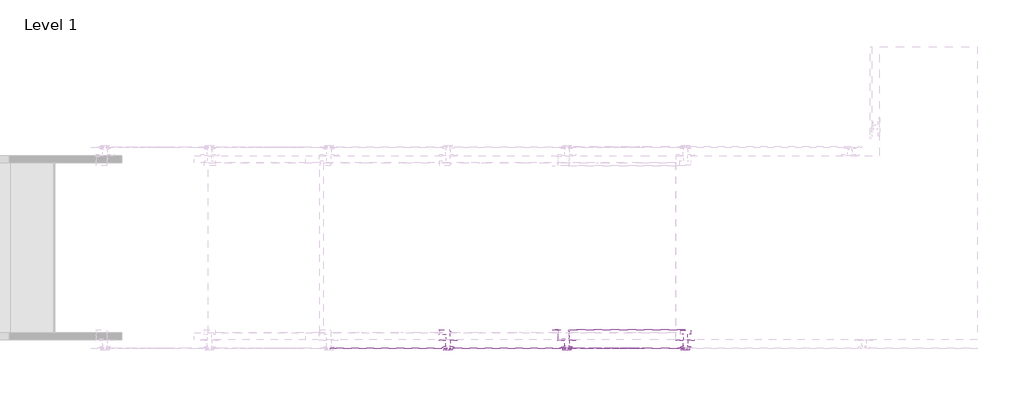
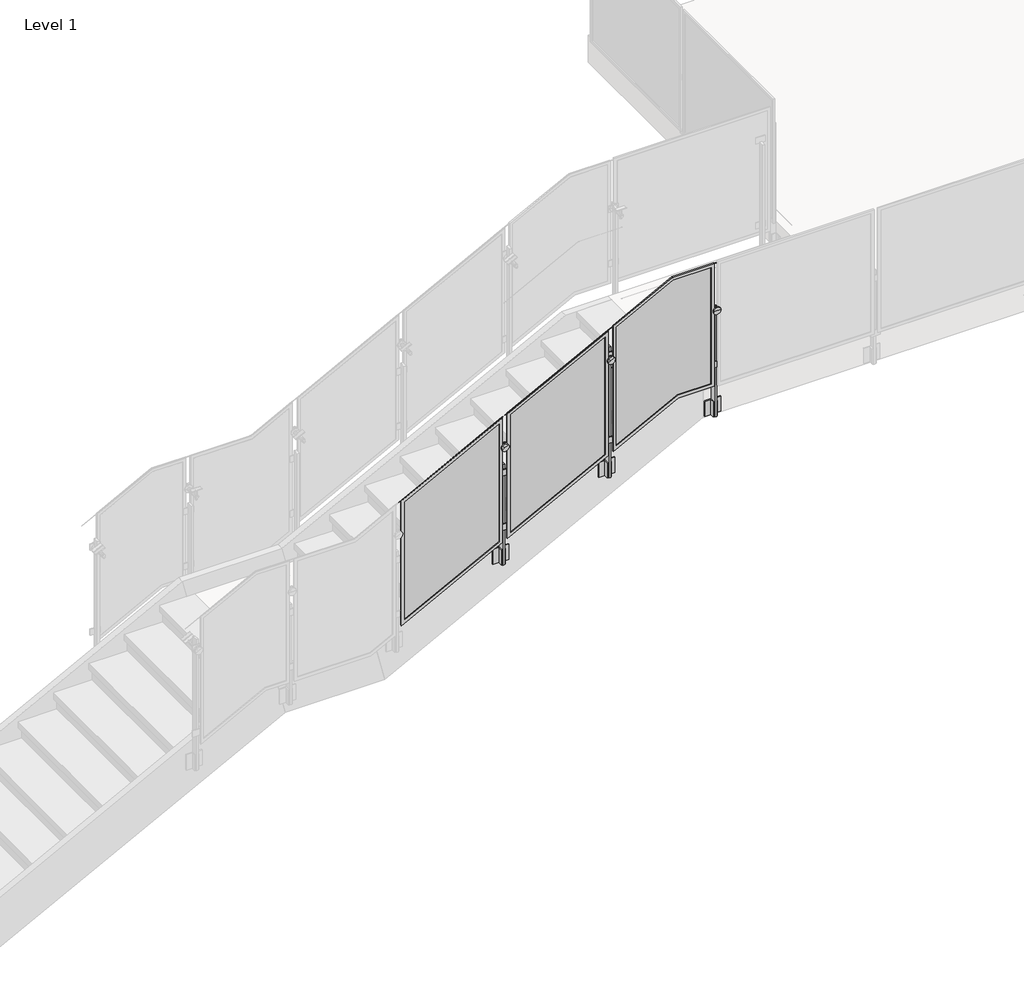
# One storey, part 19 of 28: 3 railings, 1 proxy.
"""IFC4 building model written with IfcOpenShell, lengths in millimetres."""

from ifc_helpers import new_model, si_unit, point, frame, frame_2d, origin, place, context, project, spatial, polyline, circle_curve, ellipse_curve, trimmed, segment, composite_curve, outline, extrude, transform, mapped, element, save
from ifc_brep_helpers import plane_surface, cylinder_surface, advanced_brep
from components import building_element_proxy_1a12bf55, standard_pp01_a99eba28

model = new_model("IFC4")

# Units and contexts
model_context = context("Model", 3, world=origin())
ifc_project = project(units=[si_unit("LENGTHUNIT", "METRE", prefix="MILLI")], contexts=[model_context])

# Site, building, storey
site = spatial("IfcSite", under=ifc_project)
building = spatial("IfcBuilding", under=site)
storey = spatial("IfcBuildingStorey", under=building, Name="Level 1", Elevation=0.0)

# Proxy
placement = place(None, origin())
building_element_proxy_shape = building_element_proxy_1a12bf55(model_context)
element("IfcBuildingElementProxy", 1, Name="Baluster-End-Post-VIVA-STRUC-Top Mount-Stair : WELDED Fascia MOUNT STRUC_STAIR", ObjectType="Baluster-End-Post-VIVA-STRUC-Top Mount-Stair : WELDED Fascia MOUNT STRUC_STAIR", at=placement, inside=storey, context=model_context, shape_type="MappedRepresentation", body=[
    mapped(building_element_proxy_shape, transform((-12280.6217998, -3841.110946, 3645.5604), x_axis=(1.0, 0.0, 0.0), y_axis=(0.0, 1.0, 0.0), z_axis=(0.0, 0.0, 1.0))),
])

# Railings
element("IfcRailing", 2, ObjectType="Metal-Panel-VIVA-STRUC-Fascia-Stairs-Upper", at=placement, inside=storey, context=model_context, shape_type="SolidModel", body=[
    advanced_brep(
    [(-14795.2265621, -3972.849746, 3002.0818907), (-14795.2265621, -3971.849746, 3002.0818907), (-13118.8265621, -3972.849746, 3872.9390336), (-13118.8265621, -3971.849746, 3872.9390336)],
    [
        (0, 1, ellipse_curve(frame((-14795.2265621, -3972.349746, 3002.0818907), z_axis=(-1.0, 0.0, 0.0), x_axis=(0.0, 0.0, -1.0)), 0.5634403, 0.5)),
        (1, 0, ellipse_curve(frame((-14795.2265621, -3972.349746, 3002.0818907), z_axis=(-1.0, 0.0, 0.0), x_axis=(0.0, 0.0, -1.0)), 0.5634403, 0.5)),
        (2, 3, ellipse_curve(frame((-13118.8265621, -3972.349746, 3872.9390336), z_axis=(1.0, 0.0, 0.0), x_axis=(0.0, 0.0, -1.0)), 0.5634403, 0.5)),
        (3, 2, ellipse_curve(frame((-13118.8265621, -3972.349746, 3872.9390336), z_axis=(1.0, 0.0, 0.0), x_axis=(0.0, 0.0, -1.0)), 0.5634403, 0.5)),
        (0, 2),
        (3, 1),
    ],
    [
        plane_surface(frame((-14795.2265621, -3972.349746, 3002.6453311), z_axis=(-1.0, 0.0, 0.0), x_axis=(0.0, 1.0, 0.0))),
        plane_surface(frame((-13118.8265621, -3972.349746, 3873.5024739), z_axis=(1.0, 0.0, 0.0), x_axis=(0.0, 1.0, 0.0))),
        cylinder_surface(frame((-14794.9960672, -3972.349746, 3002.2016284), z_axis=(-0.8874054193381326, 0.0, -0.46098982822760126), x_axis=(0.0, 1.0, 0.0)), 0.5),
    ],
    [
        (0, [[1, 2]]),
        (1, [[3, 4]]),
        (2, [[-1, 5, -4, 6]]),
        (2, [[-2, -6, -3, -5]]),
    ],
),
    extrude(outline(polyline([(3430.0949144, -13912.5806052), (2443.6978914, -13912.5806052), (2832.9488452, -13163.2725191), (3819.3458682, -13163.2725191), (3430.0949144, -13912.5806052)])), frame((0.0, -3970.804746, 0.0), z_axis=(0.0, 1.0, 0.0), x_axis=(0.0, 0.0, 1.0)), (0.0, 0.0, 1.0), 3.0),
    extrude(outline(polyline([(2401.8803176, -13937.9806052), (2817.5208818, -13137.8725191), (3861.1634421, -13137.8725191), (3445.5228778, -13937.9806052), (2401.8803176, -13937.9806052)]), holes=[polyline([(3430.0949144, -13912.5806052), (3819.3458682, -13163.2725191), (2832.9488452, -13163.2725191), (2443.6978914, -13912.5806052), (3430.0949144, -13912.5806052)])]), frame((0.0, -3977.329746, 0.0), z_axis=(0.0, 1.0, 0.0), x_axis=(0.0, 0.0, 1.0)), (0.0, 0.0, 1.0), 9.525),
    extrude(outline(composite_curve([segment(polyline([(-2.9997399, 0.0), (0.0, 0.0)]), True, "CONTINUOUS"), segment(trimmed(circle_curve(frame_2d((19.0451472, 1e-07)), 19.0451471), [point((0.0, 0.0))], [point((23.6280664, -18.4855208))], True, "CARTESIAN"), True, "CONTINUOUS"), segment(polyline([(23.6280664, -18.4855208), (24.3499073, -21.3971159)]), True, "CONTINUOUS"), segment(trimmed(circle_curve(frame_2d((19.0451472, 1e-07)), 22.0448871), [point((24.3499073, -21.3971159))], [point((-2.9997399, 0.0))], False, "CARTESIAN"), True, "CONTINUOUS")], self_intersect=False)), frame((-14019.5142726, -3873.586146, 3210.0400993), z_axis=(0.8874054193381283, 0.0, 0.46098982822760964), x_axis=(-0.2840545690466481, 0.7876022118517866, 0.5468050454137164)), (0.0, 0.0, 1.0), 79.1184357),
    advanced_brep(
    [(-13944.6293845, -3858.586146, 3151.7003356), (-13944.6293845, -3851.442396, 3151.7003356), (-13944.6293845, -3865.729896, 3151.7003356), (-13980.4886307, -3865.729896, 3220.7293846), (-13980.4886307, -3851.442396, 3220.7293846), (-13980.4886307, -3858.586146, 3220.7293846)],
    [
        (0, 1),
        (1, 2, circle_curve(frame((-13944.6293845, -3858.586146, 3151.7003356), z_axis=(0.46098982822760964, 0.0, -0.8874054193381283), x_axis=(0.0, 1.0, 0.0)), 7.14375)),
        (2, 0),
        (3, 4, circle_curve(frame((-13980.4886307, -3858.586146, 3220.7293846), z_axis=(-0.46098982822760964, 0.0, 0.8874054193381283), x_axis=(0.0, 1.0, 0.0)), 7.14375)),
        (4, 5),
        (5, 3),
        (2, 1, circle_curve(frame((-13944.6293845, -3858.586146, 3151.7003356), z_axis=(0.46098982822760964, 0.0, -0.8874054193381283), x_axis=(0.0, 1.0, 0.0)), 7.14375)),
        (4, 3, circle_curve(frame((-13980.4886307, -3858.586146, 3220.7293846), z_axis=(-0.46098982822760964, 0.0, 0.8874054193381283), x_axis=(0.0, 1.0, 0.0)), 7.14375)),
        (1, 4),
        (3, 2),
    ],
    [
        plane_surface(frame((-13944.6293845, -3858.586146, 3151.7003356), z_axis=(0.4609898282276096, 0.0, -0.8874054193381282), x_axis=(0.0, 1.0, 0.0))),
        plane_surface(frame((-13980.4886307, -3858.586146, 3220.7293846), z_axis=(-0.4609898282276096, 0.0, 0.8874054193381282), x_axis=(0.0, 1.0, 0.0))),
        cylinder_surface(frame((-13827.6751846, -3858.586146, 2926.5635008), z_axis=(0.46098982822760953, 0.0, -0.8874054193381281), x_axis=(0.0, 1.0, 0.0)), 7.14375),
    ],
    [
        (0, [[1, 2, 3]]),
        (1, [[4, 5, 6]]),
        (0, [[-3, 7, -1]]),
        (1, [[8, -6, -5]]),
        (2, [[-2, 9, -4, 10]]),
        (2, [[-7, -10, -8, -9]]),
    ],
),
    advanced_brep(
    [(-13930.2601962, -3977.331146, 3189.4695082), (-13983.7929281, -3977.331146, 3161.6602968), (-13962.6615865, -3977.331146, 3172.6376171), (-13951.3915377, -3977.331146, 3178.4921879), (-13930.2601962, -3985.268646, 3189.4695082), (-13983.7929281, -3985.268646, 3161.6602968), (-13930.2601962, -3959.868646, 3189.4695082), (-13983.7929281, -3959.868646, 3161.6602968), (-13968.2966109, -3959.868646, 3169.7103317), (-13945.7565133, -3959.868646, 3181.4194733), (-13930.2601962, -3967.806146, 3189.4695082), (-13983.7929281, -3967.806146, 3161.6602968), (-13957.0265621, -3985.268646, 3175.5649025), (-13945.7565133, -3847.8674022, 3181.4194733), (-13968.2966109, -3847.8674022, 3169.7103317), (-13957.0265621, -3847.8674022, 3175.5649025), (-13951.3915377, -3967.806146, 3178.4921879), (-13962.6615865, -3967.806146, 3172.6376171)],
    [
        (0, 1, circle_curve(frame((-13957.0265621, -3977.331146, 3175.5649025), z_axis=(0.0, 1.0, 0.0), x_axis=(-0.8874054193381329, 0.0, -0.46098982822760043)), 30.1625)),
        (1, 2),
        (2, 3, circle_curve(frame((-13957.0265621, -3977.331146, 3175.5649025), z_axis=(0.0, -1.0, 0.0), x_axis=(-0.8874054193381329, 0.0, -0.46098982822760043)), 6.35)),
        (3, 0),
        (4, 5, circle_curve(frame((-13957.0265621, -3985.268646, 3175.5649025), z_axis=(0.0, 1.0, 0.0), x_axis=(-0.8874054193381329, 0.0, -0.46098982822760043)), 30.1625)),
        (5, 1),
        (0, 4),
        (6, 7, circle_curve(frame((-13957.0265621, -3959.868646, 3175.5649025), z_axis=(0.0, 1.0, 0.0), x_axis=(-0.8874054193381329, 0.0, -0.46098982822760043)), 30.1625)),
        (7, 8),
        (8, 9, circle_curve(frame((-13957.0265621, -3959.868646, 3175.5649025), z_axis=(0.0, -1.0, 0.0), x_axis=(-0.8874054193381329, 0.0, -0.46098982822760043)), 12.7)),
        (9, 6),
        (10, 11, circle_curve(frame((-13957.0265621, -3967.806146, 3175.5649025), z_axis=(0.0, 1.0, 0.0), x_axis=(-0.8874054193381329, 0.0, -0.46098982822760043)), 30.1625)),
        (11, 7),
        (6, 10),
        (5, 4, circle_curve(frame((-13957.0265621, -3985.268646, 3175.5649025), z_axis=(0.0, 1.0, 0.0), x_axis=(-0.8874054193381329, 0.0, -0.46098982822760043)), 30.1625)),
        (0, 1, circle_curve(frame((-13957.0265621, -3977.331146, 3175.5649025), z_axis=(0.0, -1.0, 0.0), x_axis=(-0.8874054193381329, 0.0, -0.46098982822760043)), 30.1625)),
        (12, 5),
        (4, 12),
        (13, 14, circle_curve(frame((-13957.0265621, -3847.8674022, 3175.5649025), z_axis=(0.0, 1.0, 0.0), x_axis=(-0.8874054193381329, 0.0, -0.46098982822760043)), 12.7)),
        (14, 15),
        (15, 13),
        (14, 13, circle_curve(frame((-13957.0265621, -3847.8674022, 3175.5649025), z_axis=(0.0, 1.0, 0.0), x_axis=(-0.8874054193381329, 0.0, -0.46098982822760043)), 12.7)),
        (8, 14),
        (13, 9),
        (8, 9, circle_curve(frame((-13957.0265621, -3959.868646, 3175.5649025), z_axis=(0.0, 1.0, 0.0), x_axis=(-0.8874054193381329, 0.0, -0.46098982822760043)), 12.7)),
        (7, 6, circle_curve(frame((-13957.0265621, -3959.868646, 3175.5649025), z_axis=(0.0, 1.0, 0.0), x_axis=(-0.8874054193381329, 0.0, -0.46098982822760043)), 30.1625)),
        (11, 10, circle_curve(frame((-13957.0265621, -3967.806146, 3175.5649025), z_axis=(0.0, 1.0, 0.0), x_axis=(-0.8874054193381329, 0.0, -0.46098982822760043)), 30.1625)),
        (16, 17, circle_curve(frame((-13957.0265621, -3967.806146, 3175.5649025), z_axis=(0.0, 1.0, 0.0), x_axis=(-0.8874054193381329, 0.0, -0.46098982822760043)), 6.35)),
        (17, 11),
        (10, 16),
        (17, 16, circle_curve(frame((-13957.0265621, -3967.806146, 3175.5649025), z_axis=(0.0, 1.0, 0.0), x_axis=(-0.8874054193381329, 0.0, -0.46098982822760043)), 6.35)),
        (2, 17),
        (16, 3),
        (2, 3, circle_curve(frame((-13957.0265621, -3977.331146, 3175.5649025), z_axis=(0.0, 1.0, 0.0), x_axis=(-0.8874054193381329, 0.0, -0.46098982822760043)), 6.35)),
    ],
    [
        plane_surface(frame((-13957.0265621, -3977.331146, 3175.5649025), z_axis=(0.0, 1.0, 0.0), x_axis=(-0.8874054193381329, 0.0, -0.46098982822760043))),
        cylinder_surface(frame((-13957.0265621, -5491.806146, 3175.5649025), z_axis=(0.0, -1.0, 0.0), x_axis=(-0.8874054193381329, 0.0, -0.46098982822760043)), 30.1625),
        plane_surface(frame((-13957.0265621, -3959.868646, 3175.5649025), z_axis=(0.0, 1.0, 0.0), x_axis=(-0.8874054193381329, 0.0, -0.46098982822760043))),
        plane_surface(frame((-13957.0265621, -3985.268646, 3175.5649025), z_axis=(0.0, -1.0, 0.0), x_axis=(-0.8874054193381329, 0.0, -0.46098982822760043))),
        plane_surface(frame((-13957.0265621, -3847.8674022, 3175.5649025), z_axis=(0.0, 1.0, 0.0), x_axis=(-0.8874054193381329, 0.0, -0.46098982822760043))),
        cylinder_surface(frame((-13957.0265621, -5491.806146, 3175.5649025), z_axis=(0.0, -1.0, 0.0), x_axis=(-0.8874054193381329, 0.0, -0.46098982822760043)), 12.7),
        plane_surface(frame((-13957.0265621, -3967.806146, 3175.5649025), z_axis=(0.0, -1.0, 0.0), x_axis=(-0.8874054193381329, 0.0, -0.46098982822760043))),
        cylinder_surface(frame((-13957.0265621, -5491.806146, 3175.5649025), z_axis=(0.0, -1.0, 0.0), x_axis=(-0.8874054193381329, 0.0, -0.46098982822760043)), 6.35),
    ],
    [
        (0, [[1, 2, 3, 4]]),
        (1, [[5, 6, -1, 7]]),
        (2, [[8, 9, 10, 11]]),
        (1, [[12, 13, -8, 14]]),
        (1, [[15, -7, 16, -6]]),
        (3, [[17, -5, 18]]),
        (3, [[-18, -15, -17]]),
        (4, [[19, 20, 21]]),
        (4, [[22, -21, -20]]),
        (5, [[-10, 23, -19, 24]]),
        (5, [[25, -24, -22, -23]]),
        (2, [[26, -11, -25, -9]]),
        (1, [[27, -14, -26, -13]]),
        (6, [[28, 29, -12, 30]]),
        (6, [[31, -30, -27, -29]]),
        (7, [[-3, 32, -28, 33]]),
        (7, [[34, -33, -31, -32]]),
        (0, [[-16, -4, -34, -2]]),
    ],
),
    extrude(outline(polyline([(-13995.1272814, -3960.694146), (-13918.9258429, -3960.694146), (-13918.9258429, -3967.806146), (-13995.1272814, -3967.806146), (-13995.1272814, -3960.694146)])), frame((0.0, 0.0, 2931.2507143), z_axis=(0.0, 0.0, 1.0), x_axis=(1.0, 0.0, 0.0)), (0.0, 0.0, 1.0), 50.8),
    extrude(outline(polyline([(-13995.1272814, -3960.694146), (-13918.9258429, -3960.694146), (-13918.9258429, -3967.806146), (-13995.1272814, -3967.806146), (-13995.1272814, -3960.694146)])), frame((0.0, 0.0, 2474.0507143), z_axis=(0.0, 0.0, 1.0), x_axis=(1.0, 0.0, 0.0)), (0.0, 0.0, 1.0), 50.8),
    extrude(outline(polyline([(-13949.0911538, -3954.852146), (-13949.0911538, -3912.942146), (-13893.5306322, -3912.942146), (-13893.5306322, -3921.070146), (-13941.0901538, -3921.070146), (-13941.0901538, -3954.852146), (-13949.0911538, -3954.852146)])), frame((0.0, 0.0, 2178.6995143), z_axis=(0.0, 0.0, 1.0), x_axis=(1.0, 0.0, 0.0)), (0.0, 0.0, 1.0), 127.0),
    extrude(outline(polyline([(-13964.9661538, -3954.852146), (-13972.9671538, -3954.852146), (-13972.9671538, -3921.070146), (-14020.5266753, -3921.070146), (-14020.5266753, -3912.942146), (-13964.9661538, -3912.942146), (-13964.9661538, -3954.852146)])), frame((0.0, 0.0, 2178.6995143), z_axis=(0.0, 0.0, 1.0), x_axis=(1.0, 0.0, 0.0)), (0.0, 0.0, 1.0), 127.0),
    extrude(outline(polyline([(-13964.9661538, -3916.244146), (-13949.0869705, -3916.244146), (-13949.0869705, -3960.694146), (-13964.9661538, -3960.694146), (-13964.9661538, -3916.244146)])), frame((0.0, 0.0, 2178.6995143), z_axis=(0.0, 0.0, 1.0), x_axis=(1.0, 0.0, 0.0)), (0.0, 0.0, 1.0), 842.9752),
    extrude(outline(polyline([(2994.666343, -14750.7806052), (2008.26932, -14750.7806052), (2397.5202738, -14001.4725191), (3383.9172968, -14001.4725191), (2994.666343, -14750.7806052)])), frame((0.0, -3970.804746, 0.0), z_axis=(0.0, 1.0, 0.0), x_axis=(0.0, 0.0, 1.0)), (0.0, 0.0, 1.0), 3.0),
    extrude(outline(polyline([(1966.4517462, -14776.1806052), (2382.0923104, -13976.0725191), (3425.7348706, -13976.0725191), (3010.0943064, -14776.1806052), (1966.4517462, -14776.1806052)]), holes=[polyline([(2994.666343, -14750.7806052), (3383.9172968, -14001.4725191), (2397.5202738, -14001.4725191), (2008.26932, -14750.7806052), (2994.666343, -14750.7806052)])]), frame((0.0, -3977.329746, 0.0), z_axis=(0.0, 1.0, 0.0), x_axis=(0.0, 0.0, 1.0)), (0.0, 0.0, 1.0), 9.525),
])
element("IfcRailing", 3, ObjectType="Metal-Panel-VIVA-STRUC-Fascia-Stairs-Landing-Upper", at=placement, inside=storey, context=model_context, shape_type="SolidModel", body=[
    advanced_brep(
    [(-13220.4217998, -3841.364946, 3339.0078994), (-13220.4217998, -3840.856946, 3339.0078994), (-12629.8192861, -3841.364946, 3645.8144), (-12629.8192861, -3840.856946, 3645.8144), (-12280.6217998, -3841.364946, 3645.8144), (-12280.6217998, -3840.856946, 3645.8144)],
    [
        (0, 1, ellipse_curve(frame((-13220.4217998, -3841.110946, 3339.0078994), z_axis=(-1.0, 0.0, 0.0), x_axis=(0.0, 0.0, -0.9999999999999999)), 0.2862277, 0.254)),
        (1, 0, ellipse_curve(frame((-13220.4217998, -3841.110946, 3339.0078994), z_axis=(-1.0, 0.0, 0.0), x_axis=(0.0, 0.0, -0.9999999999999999)), 0.2862277, 0.254)),
        (0, 2),
        (2, 3, ellipse_curve(frame((-12629.8192861, -3841.110946, 3645.8144), z_axis=(-0.9714436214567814, 0.0, -0.23727050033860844), x_axis=(0.23727050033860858, 0.0, -0.9714436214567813)), 0.2614665, 0.254)),
        (3, 1),
        (3, 2, ellipse_curve(frame((-12629.8192861, -3841.110946, 3645.8144), z_axis=(-0.9714436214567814, 0.0, -0.23727050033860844), x_axis=(0.23727050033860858, 0.0, -0.9714436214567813)), 0.2614665, 0.254)),
        (4, 5, circle_curve(frame((-12280.6217998, -3841.110946, 3645.8144), z_axis=(1.0, 0.0, 0.0), x_axis=(0.0, 1.0, 0.0)), 0.254)),
        (5, 4, circle_curve(frame((-12280.6217998, -3841.110946, 3645.8144), z_axis=(1.0, 0.0, 0.0), x_axis=(0.0, 1.0, 0.0)), 0.254)),
        (2, 4),
        (5, 3),
    ],
    [
        plane_surface(frame((-13220.4217998, -3841.110946, 3339.2941271), z_axis=(-1.0, 0.0, 0.0), x_axis=(0.0, 1.0, 0.0))),
        cylinder_surface(frame((-13220.3047084, -3841.110946, 3339.0687261), z_axis=(-0.8874054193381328, 0.0, -0.4609898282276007), x_axis=(0.0, 1.0, 0.0)), 0.254),
        plane_surface(frame((-12280.6217998, -3841.110946, 3646.0684), z_axis=(1.0, 0.0, 0.0), x_axis=(0.0, 1.0, 0.0))),
        cylinder_surface(frame((-12629.8813244, -3841.110946, 3645.8144), z_axis=(-1.0, 0.0, 0.0), x_axis=(0.0, 1.0, 0.0)), 0.254),
    ],
    [
        (0, [[1, 2]]),
        (1, [[-1, 3, 4, 5]]),
        (1, [[-2, -5, 6, -3]]),
        (2, [[7, 8]]),
        (3, [[-4, 9, -8, 10]]),
        (3, [[-6, -10, -7, -9]]),
    ],
),
    advanced_brep(
    [(-13220.4217998, -3972.849746, 3820.1622867), (-13220.4217998, -3971.849746, 3820.1622867), (-12629.7592018, -3972.849746, 4127.0), (-12629.7592018, -3971.849746, 4127.0), (-12280.6217998, -3972.849746, 4127.0), (-12280.6217998, -3971.849746, 4127.0)],
    [
        (0, 1, ellipse_curve(frame((-13220.4217998, -3972.349746, 3820.1622867), z_axis=(-1.0, 0.0, 0.0), x_axis=(0.0, 0.0, -0.9999999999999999)), 0.5634403, 0.5)),
        (1, 0, ellipse_curve(frame((-13220.4217998, -3972.349746, 3820.1622867), z_axis=(-1.0, 0.0, 0.0), x_axis=(0.0, 0.0, -0.9999999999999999)), 0.5634403, 0.5)),
        (0, 2),
        (2, 3, ellipse_curve(frame((-12629.7592018, -3972.349746, 4127.0), z_axis=(-0.9714436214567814, 0.0, -0.23727050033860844), x_axis=(0.23727050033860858, 0.0, -0.9714436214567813)), 0.5146979, 0.5)),
        (3, 1),
        (3, 2, ellipse_curve(frame((-12629.7592018, -3972.349746, 4127.0), z_axis=(-0.9714436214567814, 0.0, -0.23727050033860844), x_axis=(0.23727050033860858, 0.0, -0.9714436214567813)), 0.5146979, 0.5)),
        (4, 5, circle_curve(frame((-12280.6217998, -3972.349746, 4127.0), z_axis=(1.0, 0.0, 0.0), x_axis=(0.0, 1.0, 0.0)), 0.5)),
        (5, 4, circle_curve(frame((-12280.6217998, -3972.349746, 4127.0), z_axis=(1.0, 0.0, 0.0), x_axis=(0.0, 1.0, 0.0)), 0.5)),
        (2, 4),
        (5, 3),
    ],
    [
        plane_surface(frame((-13220.4217998, -3972.349746, 3820.7257271), z_axis=(-1.0, 0.0, 0.0), x_axis=(0.0, 1.0, 0.0))),
        cylinder_surface(frame((-13220.1913049, -3972.349746, 3820.2820244), z_axis=(-0.8874054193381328, 0.0, -0.4609898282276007), x_axis=(0.0, 1.0, 0.0)), 0.5),
        plane_surface(frame((-12280.6217998, -3972.349746, 4127.5), z_axis=(1.0, 0.0, 0.0), x_axis=(0.0, 1.0, 0.0))),
        cylinder_surface(frame((-12629.8813244, -3972.349746, 4127.0), z_axis=(-1.0, 0.0, 0.0), x_axis=(0.0, 1.0, 0.0)), 0.5),
    ],
    [
        (0, [[1, 2]]),
        (1, [[-1, 3, 4, 5]]),
        (1, [[-2, -5, 6, -3]]),
        (2, [[7, 8]]),
        (3, [[-4, 9, -8, 10]]),
        (3, [[-6, -10, -7, -9]]),
    ],
),
    extrude(outline(composite_curve([segment(polyline([(-2.99974, -1e-07), (0.0, 0.0)]), True, "CONTINUOUS"), segment(trimmed(circle_curve(frame_2d((19.0451471, 0.0)), 19.0451471), [point((0.0, 0.0))], [point((23.6280664, -18.4855208))], True, "CARTESIAN"), True, "CONTINUOUS"), segment(polyline([(23.6280664, -18.4855208), (24.3499073, -21.397116)]), True, "CONTINUOUS"), segment(trimmed(circle_curve(frame_2d((19.0451471, 0.0)), 22.0448871), [point((24.3499073, -21.397116))], [point((-2.99974, -1e-07))], False, "CARTESIAN"), True, "CONTINUOUS")], self_intersect=False)), frame((-13181.3095103, -3873.586146, 3645.4711447), z_axis=(0.8874054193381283, 0.0, 0.46098982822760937), x_axis=(-0.28405456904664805, 0.7876022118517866, 0.5468050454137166)), (0.0, 0.0, 1.0), 79.1184357),
    advanced_brep(
    [(-13106.4246222, -3858.586146, 3587.1313809), (-13106.4246222, -3851.442396, 3587.1313809), (-13106.4246222, -3865.729896, 3587.1313809), (-13142.2838684, -3865.729896, 3656.16043), (-13142.2838684, -3851.442396, 3656.16043), (-13142.2838684, -3858.586146, 3656.16043)],
    [
        (0, 1),
        (1, 2, circle_curve(frame((-13106.4246222, -3858.586146, 3587.1313809), z_axis=(0.4609898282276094, 0.0, -0.8874054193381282), x_axis=(0.0, 1.0, 0.0)), 7.14375)),
        (2, 0),
        (3, 4, circle_curve(frame((-13142.2838684, -3858.586146, 3656.16043), z_axis=(-0.4609898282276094, 0.0, 0.8874054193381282), x_axis=(0.0, 1.0, 0.0)), 7.14375)),
        (4, 5),
        (5, 3),
        (2, 1, circle_curve(frame((-13106.4246222, -3858.586146, 3587.1313809), z_axis=(0.4609898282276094, 0.0, -0.8874054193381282), x_axis=(0.0, 1.0, 0.0)), 7.14375)),
        (4, 3, circle_curve(frame((-13142.2838684, -3858.586146, 3656.16043), z_axis=(-0.4609898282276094, 0.0, 0.8874054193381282), x_axis=(0.0, 1.0, 0.0)), 7.14375)),
        (1, 4),
        (3, 2),
    ],
    [
        plane_surface(frame((-13106.4246222, -3858.586146, 3587.1313809), z_axis=(0.4609898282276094, 0.0, -0.8874054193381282), x_axis=(0.0, 1.0, 0.0))),
        plane_surface(frame((-13142.2838684, -3858.586146, 3656.16043), z_axis=(-0.4609898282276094, 0.0, 0.8874054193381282), x_axis=(0.0, 1.0, 0.0))),
        cylinder_surface(frame((-12989.4704223, -3858.586146, 3361.9945462), z_axis=(0.4609898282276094, 0.0, -0.8874054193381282), x_axis=(0.0, 1.0, 0.0)), 7.14375),
    ],
    [
        (0, [[1, 2, 3]]),
        (1, [[4, 5, 6]]),
        (0, [[-3, 7, -1]]),
        (1, [[8, -6, -5]]),
        (2, [[-2, 9, -4, 10]]),
        (2, [[-7, -10, -8, -9]]),
    ],
),
    advanced_brep(
    [(-13092.0554339, -3977.331146, 3624.9005535), (-13145.5881658, -3977.331146, 3597.0913422), (-13124.4568242, -3977.331146, 3608.0686624), (-13113.1867754, -3977.331146, 3613.9232333), (-13092.0554339, -3985.268646, 3624.9005535), (-13145.5881658, -3985.268646, 3597.0913422), (-13092.0554339, -3959.868646, 3624.9005535), (-13145.5881658, -3959.868646, 3597.0913422), (-13130.0918486, -3959.868646, 3605.141377), (-13107.551751, -3959.868646, 3616.8505187), (-13092.0554339, -3967.806146, 3624.9005535), (-13145.5881658, -3967.806146, 3597.0913422), (-13118.8217998, -3985.268646, 3610.9959479), (-13107.551751, -3847.8674022, 3616.8505187), (-13130.0918486, -3847.8674022, 3605.141377), (-13118.8217998, -3847.8674022, 3610.9959479), (-13113.1867754, -3967.806146, 3613.9232333), (-13124.4568242, -3967.806146, 3608.0686624)],
    [
        (0, 1, circle_curve(frame((-13118.8217998, -3977.331146, 3610.9959479), z_axis=(0.0, 1.0, 0.0), x_axis=(-0.887405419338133, 0.0, -0.4609898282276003)), 30.1625)),
        (1, 2),
        (2, 3, circle_curve(frame((-13118.8217998, -3977.331146, 3610.9959479), z_axis=(0.0, -1.0, 0.0), x_axis=(-0.887405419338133, 0.0, -0.4609898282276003)), 6.35)),
        (3, 0),
        (4, 5, circle_curve(frame((-13118.8217998, -3985.268646, 3610.9959479), z_axis=(0.0, 1.0, 0.0), x_axis=(-0.887405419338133, 0.0, -0.4609898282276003)), 30.1625)),
        (5, 1),
        (0, 4),
        (6, 7, circle_curve(frame((-13118.8217998, -3959.868646, 3610.9959479), z_axis=(0.0, 1.0, 0.0), x_axis=(-0.887405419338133, 0.0, -0.4609898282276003)), 30.1625)),
        (7, 8),
        (8, 9, circle_curve(frame((-13118.8217998, -3959.868646, 3610.9959479), z_axis=(0.0, -1.0, 0.0), x_axis=(-0.887405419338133, 0.0, -0.4609898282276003)), 12.7)),
        (9, 6),
        (10, 11, circle_curve(frame((-13118.8217998, -3967.806146, 3610.9959479), z_axis=(0.0, 1.0, 0.0), x_axis=(-0.887405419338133, 0.0, -0.4609898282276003)), 30.1625)),
        (11, 7),
        (6, 10),
        (5, 4, circle_curve(frame((-13118.8217998, -3985.268646, 3610.9959479), z_axis=(0.0, 1.0, 0.0), x_axis=(-0.887405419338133, 0.0, -0.4609898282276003)), 30.1625)),
        (0, 1, circle_curve(frame((-13118.8217998, -3977.331146, 3610.9959479), z_axis=(0.0, -1.0, 0.0), x_axis=(-0.887405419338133, 0.0, -0.4609898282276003)), 30.1625)),
        (12, 5),
        (4, 12),
        (13, 14, circle_curve(frame((-13118.8217998, -3847.8674022, 3610.9959479), z_axis=(0.0, 1.0, 0.0), x_axis=(-0.887405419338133, 0.0, -0.4609898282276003)), 12.7)),
        (14, 15),
        (15, 13),
        (14, 13, circle_curve(frame((-13118.8217998, -3847.8674022, 3610.9959479), z_axis=(0.0, 1.0, 0.0), x_axis=(-0.887405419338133, 0.0, -0.4609898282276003)), 12.7)),
        (8, 14),
        (13, 9),
        (8, 9, circle_curve(frame((-13118.8217998, -3959.868646, 3610.9959479), z_axis=(0.0, 1.0, 0.0), x_axis=(-0.887405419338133, 0.0, -0.4609898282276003)), 12.7)),
        (7, 6, circle_curve(frame((-13118.8217998, -3959.868646, 3610.9959479), z_axis=(0.0, 1.0, 0.0), x_axis=(-0.887405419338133, 0.0, -0.4609898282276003)), 30.1625)),
        (11, 10, circle_curve(frame((-13118.8217998, -3967.806146, 3610.9959479), z_axis=(0.0, 1.0, 0.0), x_axis=(-0.887405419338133, 0.0, -0.4609898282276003)), 30.1625)),
        (16, 17, circle_curve(frame((-13118.8217998, -3967.806146, 3610.9959479), z_axis=(0.0, 1.0, 0.0), x_axis=(-0.887405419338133, 0.0, -0.4609898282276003)), 6.35)),
        (17, 11),
        (10, 16),
        (17, 16, circle_curve(frame((-13118.8217998, -3967.806146, 3610.9959479), z_axis=(0.0, 1.0, 0.0), x_axis=(-0.887405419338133, 0.0, -0.4609898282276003)), 6.35)),
        (2, 17),
        (16, 3),
        (2, 3, circle_curve(frame((-13118.8217998, -3977.331146, 3610.9959479), z_axis=(0.0, 1.0, 0.0), x_axis=(-0.887405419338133, 0.0, -0.4609898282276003)), 6.35)),
    ],
    [
        plane_surface(frame((-13118.8217998, -3977.331146, 3610.9959479), z_axis=(0.0, 1.0, 0.0), x_axis=(-0.887405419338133, 0.0, -0.4609898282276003))),
        cylinder_surface(frame((-13118.8217998, -5491.806146, 3610.9959479), z_axis=(0.0, -1.0, 0.0), x_axis=(-0.887405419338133, 0.0, -0.4609898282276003)), 30.1625),
        plane_surface(frame((-13118.8217998, -3959.868646, 3610.9959479), z_axis=(0.0, 1.0, 0.0), x_axis=(-0.887405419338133, 0.0, -0.4609898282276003))),
        plane_surface(frame((-13118.8217998, -3985.268646, 3610.9959479), z_axis=(0.0, -1.0, 0.0), x_axis=(-0.887405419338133, 0.0, -0.4609898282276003))),
        plane_surface(frame((-13118.8217998, -3847.8674022, 3610.9959479), z_axis=(0.0, 1.0, 0.0), x_axis=(-0.887405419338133, 0.0, -0.4609898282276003))),
        cylinder_surface(frame((-13118.8217998, -5491.806146, 3610.9959479), z_axis=(0.0, -1.0, 0.0), x_axis=(-0.887405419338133, 0.0, -0.4609898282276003)), 12.7),
        plane_surface(frame((-13118.8217998, -3967.806146, 3610.9959479), z_axis=(0.0, -1.0, 0.0), x_axis=(-0.887405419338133, 0.0, -0.4609898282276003))),
        cylinder_surface(frame((-13118.8217998, -5491.806146, 3610.9959479), z_axis=(0.0, -1.0, 0.0), x_axis=(-0.887405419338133, 0.0, -0.4609898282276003)), 6.35),
    ],
    [
        (0, [[1, 2, 3, 4]]),
        (1, [[5, 6, -1, 7]]),
        (2, [[8, 9, 10, 11]]),
        (1, [[12, 13, -8, 14]]),
        (1, [[15, -7, 16, -6]]),
        (3, [[17, -5, 18]]),
        (3, [[-18, -15, -17]]),
        (4, [[19, 20, 21]]),
        (4, [[22, -21, -20]]),
        (5, [[-10, 23, -19, 24]]),
        (5, [[25, -24, -22, -23]]),
        (2, [[26, -11, -25, -9]]),
        (1, [[27, -14, -26, -13]]),
        (6, [[28, 29, -12, 30]]),
        (6, [[31, -30, -27, -29]]),
        (7, [[-3, 32, -28, 33]]),
        (7, [[34, -33, -31, -32]]),
        (0, [[-16, -4, -34, -2]]),
    ],
),
    extrude(outline(polyline([(-13156.9225191, -3960.694146), (-13080.7210806, -3960.694146), (-13080.7210806, -3967.806146), (-13156.9225191, -3967.806146), (-13156.9225191, -3960.694146)])), frame((0.0, 0.0, 3620.6792857), z_axis=(0.0, 0.0, 1.0), x_axis=(1.0, 0.0, 0.0)), (0.0, 0.0, 1.0), 50.8),
    extrude(outline(polyline([(-13156.9225191, -3960.694146), (-13080.7210806, -3960.694146), (-13080.7210806, -3967.806146), (-13156.9225191, -3967.806146), (-13156.9225191, -3960.694146)])), frame((0.0, 0.0, 2909.4792857), z_axis=(0.0, 0.0, 1.0), x_axis=(1.0, 0.0, 0.0)), (0.0, 0.0, 1.0), 50.8),
    extrude(outline(composite_curve([segment(polyline([(2.99974, 1e-07), (0.0, 0.0)]), True, "CONTINUOUS"), segment(trimmed(circle_curve(frame_2d((-19.0451471, 0.0)), 19.0451471), [point((0.0, 0.0))], [point((-23.6280664, 18.4855208))], True, "CARTESIAN"), True, "CONTINUOUS"), segment(polyline([(-23.6280664, 18.4855208), (-24.3499073, 21.397116)]), True, "CONTINUOUS"), segment(trimmed(circle_curve(frame_2d((-19.0451471, 0.0)), 22.0448871), [point((-24.3499073, 21.397116))], [point((2.99974, 1e-07))], False, "CARTESIAN"), True, "CONTINUOUS")], self_intersect=False)), frame((-13181.3095103, -3906.606146, 3645.4711447), z_axis=(0.8874054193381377, 0.0, 0.46098982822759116), x_axis=(0.28405456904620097, -0.7876022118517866, -0.5468050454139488)), (0.0, 0.0, 1.0), 79.1184357),
    advanced_brep(
    [(-13106.4246222, -3891.606146, 3587.1313809), (-13106.4246222, -3898.749896, 3587.1313809), (-13106.4246222, -3884.462396, 3587.1313809), (-13142.2838684, -3898.749896, 3656.16043), (-13142.2838684, -3891.606146, 3656.16043), (-13142.2838684, -3884.462396, 3656.16043)],
    [
        (0, 1),
        (1, 2, circle_curve(frame((-13106.4246222, -3891.606146, 3587.1313809), z_axis=(0.4609898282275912, 0.0, -0.8874054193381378), x_axis=(0.0, 1.0, 0.0)), 7.14375)),
        (2, 0),
        (3, 4),
        (4, 5),
        (5, 3, circle_curve(frame((-13142.2838684, -3891.606146, 3656.16043), z_axis=(-0.4609898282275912, 0.0, 0.8874054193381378), x_axis=(0.0, 1.0, 0.0)), 7.14375)),
        (2, 1, circle_curve(frame((-13106.4246222, -3891.606146, 3587.1313809), z_axis=(0.4609898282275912, 0.0, -0.8874054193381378), x_axis=(0.0, 1.0, 0.0)), 7.14375)),
        (3, 5, circle_curve(frame((-13142.2838684, -3891.606146, 3656.16043), z_axis=(-0.4609898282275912, 0.0, 0.8874054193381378), x_axis=(0.0, 1.0, 0.0)), 7.14375)),
        (1, 3),
        (5, 2),
    ],
    [
        plane_surface(frame((-13106.4246222, -3891.606146, 3587.1313809), z_axis=(0.4609898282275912, 0.0, -0.8874054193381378), x_axis=(0.0, 1.0, 0.0))),
        plane_surface(frame((-13142.2838684, -3891.606146, 3656.16043), z_axis=(-0.4609898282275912, 0.0, 0.8874054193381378), x_axis=(0.0, 1.0, 0.0))),
        cylinder_surface(frame((-12989.4704223, -3891.606146, 3361.9945462), z_axis=(0.4609898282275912, 0.0, -0.8874054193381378), x_axis=(0.0, 1.0, 0.0)), 7.14375),
    ],
    [
        (0, [[1, 2, 3]]),
        (1, [[4, 5, 6]]),
        (0, [[-3, 7, -1]]),
        (1, [[-5, -4, 8]]),
        (2, [[9, -6, 10, -2]]),
        (2, [[-10, -8, -9, -7]]),
    ],
),
    advanced_brep(
    [(-13145.5881658, -3977.331146, 3597.0913422), (-13124.4568242, -3977.331146, 3608.0686624), (-13113.1867754, -3977.331146, 3613.9232333), (-13092.0554339, -3977.331146, 3624.9005535), (-13145.5881658, -3985.268646, 3597.0913422), (-13092.0554339, -3985.268646, 3624.9005535), (-13145.5881658, -3959.868646, 3597.0913422), (-13130.0918486, -3959.868646, 3605.141377), (-13107.551751, -3959.868646, 3616.8505187), (-13092.0554339, -3959.868646, 3624.9005535), (-13145.5881658, -3967.806146, 3597.0913422), (-13092.0554339, -3967.806146, 3624.9005535), (-13118.8217998, -3985.268646, 3610.9959479), (-13130.0918486, -3880.493646, 3605.141377), (-13118.8217998, -3880.493646, 3610.9959479), (-13107.551751, -3880.493646, 3616.8505187), (-13124.4568242, -3967.806146, 3608.0686624), (-13113.1867754, -3967.806146, 3613.9232333)],
    [
        (0, 1),
        (1, 2, circle_curve(frame((-13118.8217998, -3977.331146, 3610.9959479), z_axis=(0.0, -1.0, 0.0), x_axis=(0.887405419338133, 0.0, 0.4609898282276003)), 6.35)),
        (2, 3),
        (3, 0, circle_curve(frame((-13118.8217998, -3977.331146, 3610.9959479), z_axis=(0.0, 1.0, 0.0), x_axis=(0.887405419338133, 0.0, 0.4609898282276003)), 30.1625)),
        (4, 0),
        (3, 5),
        (5, 4, circle_curve(frame((-13118.8217998, -3985.268646, 3610.9959479), z_axis=(0.0, 1.0, 0.0), x_axis=(0.887405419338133, 0.0, 0.4609898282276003)), 30.1625)),
        (6, 7),
        (7, 8, circle_curve(frame((-13118.8217998, -3959.868646, 3610.9959479), z_axis=(0.0, -1.0, 0.0), x_axis=(0.887405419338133, 0.0, 0.4609898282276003)), 12.7)),
        (8, 9),
        (9, 6, circle_curve(frame((-13118.8217998, -3959.868646, 3610.9959479), z_axis=(0.0, 1.0, 0.0), x_axis=(0.887405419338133, 0.0, 0.4609898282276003)), 30.1625)),
        (10, 6),
        (9, 11),
        (11, 10, circle_curve(frame((-13118.8217998, -3967.806146, 3610.9959479), z_axis=(0.0, 1.0, 0.0), x_axis=(0.887405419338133, 0.0, 0.4609898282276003)), 30.1625)),
        (3, 0, circle_curve(frame((-13118.8217998, -3977.331146, 3610.9959479), z_axis=(0.0, -1.0, 0.0), x_axis=(0.887405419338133, 0.0, 0.4609898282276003)), 30.1625)),
        (4, 5, circle_curve(frame((-13118.8217998, -3985.268646, 3610.9959479), z_axis=(0.0, 1.0, 0.0), x_axis=(0.887405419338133, 0.0, 0.4609898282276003)), 30.1625)),
        (12, 4),
        (5, 12),
        (13, 14),
        (14, 15),
        (15, 13, circle_curve(frame((-13118.8217998, -3880.493646, 3610.9959479), z_axis=(0.0, 1.0, 0.0), x_axis=(0.887405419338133, 0.0, 0.4609898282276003)), 12.7)),
        (13, 15, circle_curve(frame((-13118.8217998, -3880.493646, 3610.9959479), z_axis=(0.0, 1.0, 0.0), x_axis=(0.887405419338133, 0.0, 0.4609898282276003)), 12.7)),
        (7, 13),
        (15, 8),
        (7, 8, circle_curve(frame((-13118.8217998, -3959.868646, 3610.9959479), z_axis=(0.0, 1.0, 0.0), x_axis=(0.887405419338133, 0.0, 0.4609898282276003)), 12.7)),
        (6, 9, circle_curve(frame((-13118.8217998, -3959.868646, 3610.9959479), z_axis=(0.0, 1.0, 0.0), x_axis=(0.887405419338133, 0.0, 0.4609898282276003)), 30.1625)),
        (10, 11, circle_curve(frame((-13118.8217998, -3967.806146, 3610.9959479), z_axis=(0.0, 1.0, 0.0), x_axis=(0.887405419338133, 0.0, 0.4609898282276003)), 30.1625)),
        (16, 10),
        (11, 17),
        (17, 16, circle_curve(frame((-13118.8217998, -3967.806146, 3610.9959479), z_axis=(0.0, 1.0, 0.0), x_axis=(0.887405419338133, 0.0, 0.4609898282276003)), 6.35)),
        (16, 17, circle_curve(frame((-13118.8217998, -3967.806146, 3610.9959479), z_axis=(0.0, 1.0, 0.0), x_axis=(0.887405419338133, 0.0, 0.4609898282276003)), 6.35)),
        (1, 16),
        (17, 2),
        (1, 2, circle_curve(frame((-13118.8217998, -3977.331146, 3610.9959479), z_axis=(0.0, 1.0, 0.0), x_axis=(0.887405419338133, 0.0, 0.4609898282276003)), 6.35)),
    ],
    [
        plane_surface(frame((-13118.8217998, -3977.331146, 3610.9959479), z_axis=(0.0, 1.0, 0.0), x_axis=(0.887405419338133, 0.0, 0.4609898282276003))),
        cylinder_surface(frame((-13118.8217998, -5491.806146, 3610.9959479), z_axis=(0.0, -1.0, 0.0), x_axis=(0.887405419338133, 0.0, 0.4609898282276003)), 30.1625),
        plane_surface(frame((-13118.8217998, -3959.868646, 3610.9959479), z_axis=(0.0, 1.0, 0.0), x_axis=(0.887405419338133, 0.0, 0.4609898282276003))),
        plane_surface(frame((-13118.8217998, -3985.268646, 3610.9959479), z_axis=(0.0, -1.0, 0.0), x_axis=(0.887405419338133, 0.0, 0.4609898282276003))),
        plane_surface(frame((-13118.8217998, -3880.493646, 3610.9959479), z_axis=(0.0, 1.0, 0.0), x_axis=(0.887405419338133, 0.0, 0.4609898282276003))),
        cylinder_surface(frame((-13118.8217998, -5491.806146, 3610.9959479), z_axis=(0.0, -1.0, 0.0), x_axis=(0.887405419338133, 0.0, 0.4609898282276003)), 12.7),
        plane_surface(frame((-13118.8217998, -3967.806146, 3610.9959479), z_axis=(0.0, -1.0, 0.0), x_axis=(0.887405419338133, 0.0, 0.4609898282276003))),
        cylinder_surface(frame((-13118.8217998, -5491.806146, 3610.9959479), z_axis=(0.0, -1.0, 0.0), x_axis=(0.887405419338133, 0.0, 0.4609898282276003)), 6.35),
    ],
    [
        (0, [[1, 2, 3, 4]]),
        (1, [[5, -4, 6, 7]]),
        (2, [[8, 9, 10, 11]]),
        (1, [[12, -11, 13, 14]]),
        (1, [[-6, 15, -5, 16]]),
        (3, [[17, -7, 18]]),
        (3, [[-18, -16, -17]]),
        (4, [[19, 20, 21]]),
        (4, [[-20, -19, 22]]),
        (5, [[23, -21, 24, -9]]),
        (5, [[-24, -22, -23, 25]]),
        (2, [[-10, -25, -8, 26]]),
        (1, [[-13, -26, -12, 27]]),
        (6, [[28, -14, 29, 30]]),
        (6, [[-29, -27, -28, 31]]),
        (7, [[32, -30, 33, -2]]),
        (7, [[-33, -31, -32, 34]]),
        (0, [[-3, -34, -1, -15]]),
    ],
),
    extrude(outline(polyline([(-13110.8863915, -3954.852146), (-13110.8863915, -3912.942146), (-13055.3258699, -3912.942146), (-13055.3258699, -3921.070146), (-13102.8853915, -3921.070146), (-13102.8853915, -3954.852146), (-13110.8863915, -3954.852146)])), frame((0.0, 0.0, 2614.1280857), z_axis=(0.0, 0.0, 1.0), x_axis=(1.0, 0.0, 0.0)), (0.0, 0.0, 1.0), 127.0),
    extrude(outline(polyline([(-13126.7613915, -3954.852146), (-13134.7623915, -3954.852146), (-13134.7623915, -3921.070146), (-13182.321913, -3921.070146), (-13182.321913, -3912.942146), (-13126.7613915, -3912.942146), (-13126.7613915, -3954.852146)])), frame((0.0, 0.0, 2614.1280857), z_axis=(0.0, 0.0, 1.0), x_axis=(1.0, 0.0, 0.0)), (0.0, 0.0, 1.0), 127.0),
    extrude(outline(polyline([(-13126.7613915, -3916.244146), (-13110.8822082, -3916.244146), (-13110.8822082, -3960.694146), (-13126.7613915, -3960.694146), (-13126.7613915, -3916.244146)])), frame((0.0, 0.0, 2614.1280857), z_axis=(0.0, 0.0, 1.0), x_axis=(1.0, 0.0, 0.0)), (0.0, 0.0, 1.0), 1096.9752),
])
standard_pp01_shape = standard_pp01_a99eba28(model_context)
element("IfcRailing", 4, ObjectType="Baluster-Landing-Panel-VIVA-STRUC-Lower : Standard_PP01", at=placement, inside=storey, context=model_context, shape_type="MappedRepresentation", body=[
    mapped(standard_pp01_shape, transform((-13099.7710806, -3985.0601228, 3199.8110227), x_axis=(0.0, 1.0, 0.0), y_axis=(-1.0, 0.0, 0.0), z_axis=(0.0, 0.0, 1.0))),
])

save(model, "model.ifc")
